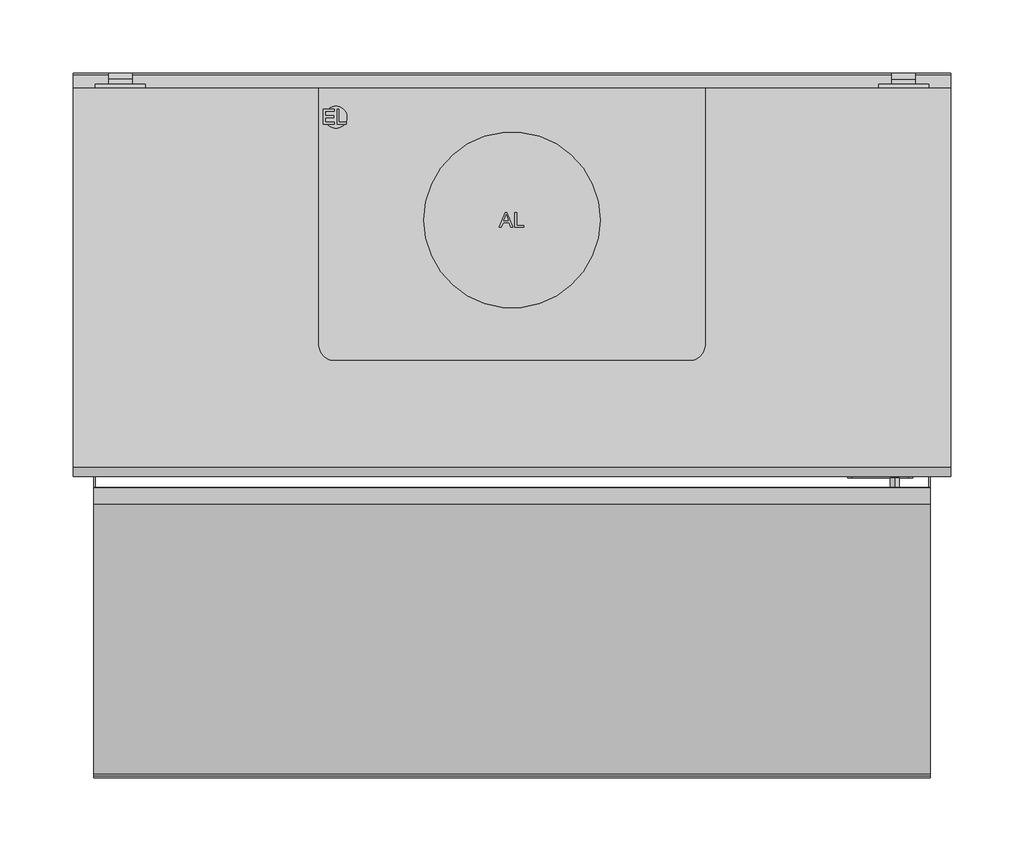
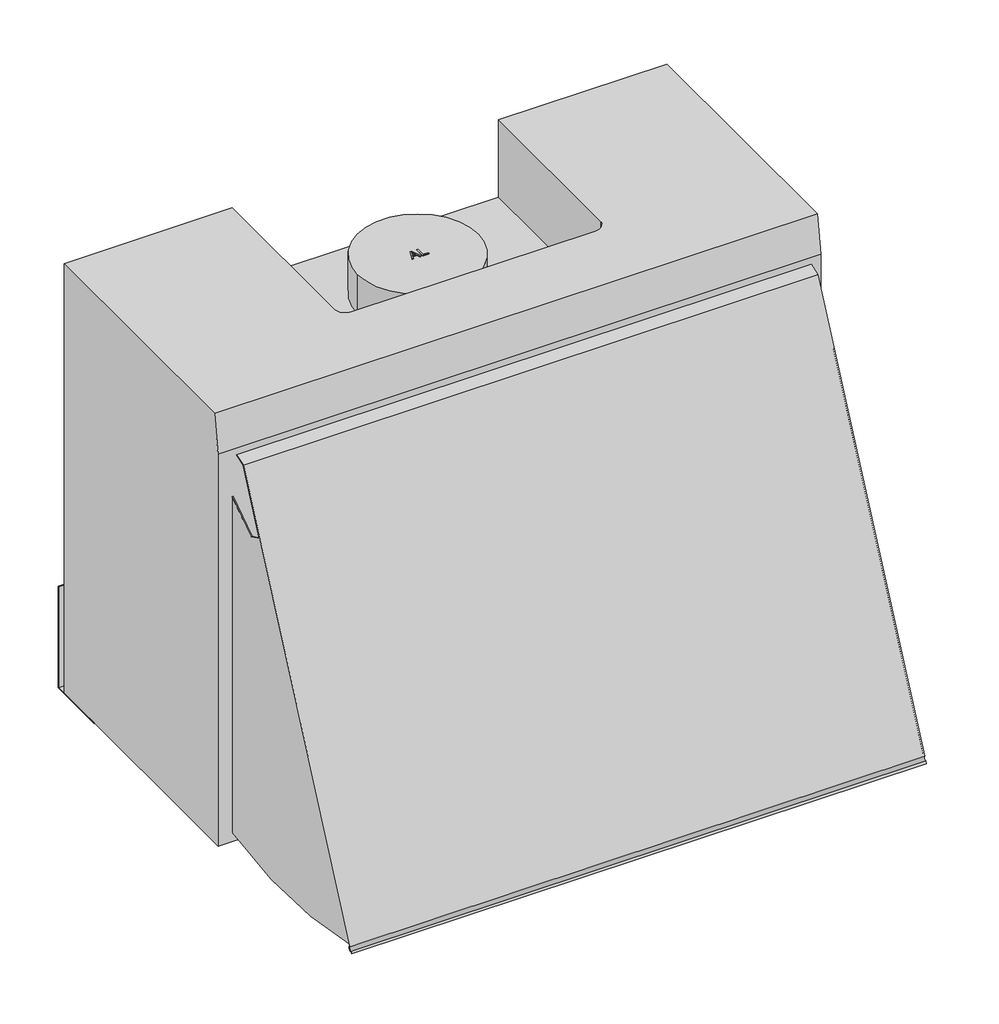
# Not in any storey: 1 proxy.
"""IFC4 building model written with IfcOpenShell, lengths in millimetres."""

from ifc_helpers import new_model, si_unit, origin, place, context, project, spatial, transform, mapped, element, save
from components import specialty_equipment_7dc275c3

model = new_model("IFC4")

# Units and contexts
model_context = context("Model", 3, world=origin())
ifc_project = project(units=[si_unit("LENGTHUNIT", "METRE", prefix="MILLI")], contexts=[model_context])

# Site, building
site = spatial("IfcSite", under=ifc_project)
building = spatial("IfcBuilding", under=site)

# Proxy
placement = place(None, origin())
specialty_equipment_shape = specialty_equipment_7dc275c3(model_context)
element("IfcBuildingElementProxy", 1, Name="12697760_D_DAZ1620_EDST-OPTIK : 28Z1620S_D_12697760_DAZ1620_EDST-OPTIK", ObjectType="12697760_D_DAZ1620_EDST-OPTIK : 28Z1620S_D_12697760_DAZ1620_EDST-OPTIK", at=placement, inside=building, context=model_context, shape_type="MappedRepresentation", body=[
    mapped(specialty_equipment_shape, transform((0.0, 0.0, 0.0), x_axis=(1.0, 0.0, 0.0), y_axis=(0.0, 1.0, 0.0), z_axis=(0.0, 0.0, 1.0))),
])

save(model, "model.ifc")
